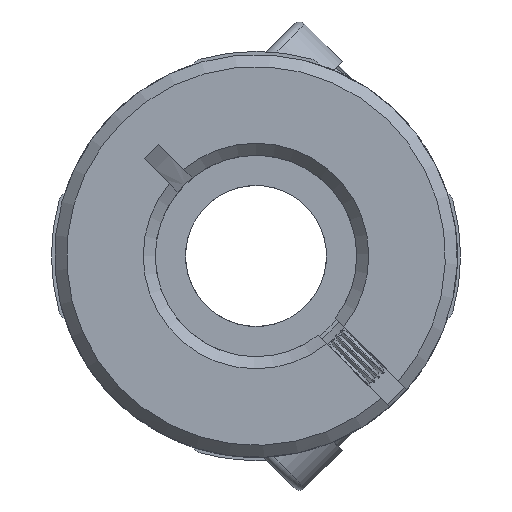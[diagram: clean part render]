
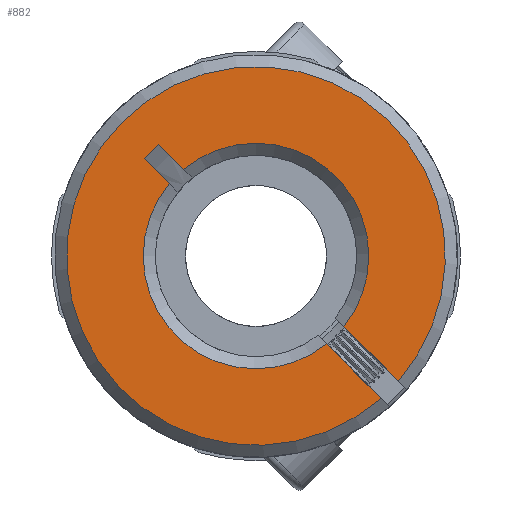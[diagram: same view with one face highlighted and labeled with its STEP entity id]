
A CAD part, front view. The second image highlights one B-rep face of the part: STEP entity #882.
In plain terms, the highlighted planar face has unit normal (0, -1, 0).
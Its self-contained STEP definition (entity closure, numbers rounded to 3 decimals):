
#6 = AXIS2_PLACEMENT_3D ( 'NONE', #3808, #12869, #5773 ) ;
#189 = CARTESIAN_POINT ( 'NONE',  ( 0., -12.6, 0. ) ) ;
#506 = CIRCLE ( 'NONE', #2039, 5.6 ) ;
#528 = VECTOR ( 'NONE', #1985, 1000. ) ;
#585 = VECTOR ( 'NONE', #2566, 1000. ) ;
#595 = EDGE_CURVE ( 'NONE', #7185, #9707, #506, .T. ) ;
#882 = ADVANCED_FACE ( 'NONE', ( #6372 ), #2919, .F. ) ;
#1266 = CARTESIAN_POINT ( 'NONE',  ( 0., -12.6, 0. ) ) ;
#1975 = DIRECTION ( 'NONE',  ( -0.707, 0., 0.707 ) ) ;
#1985 = DIRECTION ( 'NONE',  ( 0.707, 0., -0.707 ) ) ;
#2039 = AXIS2_PLACEMENT_3D ( 'NONE', #189, #9350, #3236 ) ;
#2164 = DIRECTION ( 'NONE',  ( -0.707, 0., -0.707 ) ) ;
#2518 = ORIENTED_EDGE ( 'NONE', *, *, #11544, .F. ) ;
#2566 = DIRECTION ( 'NONE',  ( 0.707, 0., -0.707 ) ) ;
#2639 = CARTESIAN_POINT ( 'NONE',  ( 6.209, -12.6, -7.058 ) ) ;
#2768 = LINE ( 'NONE', #12799, #9588 ) ;
#2833 = ORIENTED_EDGE ( 'NONE', *, *, #10710, .F. ) ;
#2862 = EDGE_CURVE ( 'NONE', #12980, #9944, #6311, .T. ) ;
#2919 = PLANE ( 'NONE',  #6 ) ;
#2941 = LINE ( 'NONE', #11680, #585 ) ;
#3235 = ORIENTED_EDGE ( 'NONE', *, *, #12057, .F. ) ;
#3236 = DIRECTION ( 'NONE',  ( 0.707, 0., -0.707 ) ) ;
#3485 = DIRECTION ( 'NONE',  ( 0.707, 0., -0.707 ) ) ;
#3747 = CARTESIAN_POINT ( 'NONE',  ( -4.298, -12.6, 3.59 ) ) ;
#3808 = CARTESIAN_POINT ( 'NONE',  ( 342.528, -12.6, 364.579 ) ) ;
#4018 = VECTOR ( 'NONE', #1975, 1000. ) ;
#4281 = ORIENTED_EDGE ( 'NONE', *, *, #6040, .T. ) ;
#4321 = CARTESIAN_POINT ( 'NONE',  ( 7.058, -12.6, -6.209 ) ) ;
#4793 = CIRCLE ( 'NONE', #7766, 5.6 ) ;
#4877 = ORIENTED_EDGE ( 'NONE', *, *, #595, .T. ) ;
#4896 = VECTOR ( 'NONE', #2164, 1000. ) ;
#5723 = VERTEX_POINT ( 'NONE', #2639 ) ;
#5773 = DIRECTION ( 'NONE',  ( 0.707, 0., -0.707 ) ) ;
#5862 = VERTEX_POINT ( 'NONE', #3747 ) ;
#6040 = EDGE_CURVE ( 'NONE', #7653, #5862, #4793, .T. ) ;
#6081 = DIRECTION ( 'NONE',  ( 0.707, 0., -0.707 ) ) ;
#6311 = LINE ( 'NONE', #10319, #4896 ) ;
#6332 = DIRECTION ( 'NONE',  ( 0., -1., 0. ) ) ;
#6372 = FACE_OUTER_BOUND ( 'NONE', #9041, .T. ) ;
#6737 = DIRECTION ( 'NONE',  ( 0.707, 0., -0.707 ) ) ;
#7108 = CARTESIAN_POINT ( 'NONE',  ( -5.549, -12.6, 4.842 ) ) ;
#7185 = VERTEX_POINT ( 'NONE', #12124 ) ;
#7653 = VERTEX_POINT ( 'NONE', #10332 ) ;
#7766 = AXIS2_PLACEMENT_3D ( 'NONE', #8089, #12145, #6081 ) ;
#7953 = ORIENTED_EDGE ( 'NONE', *, *, #2862, .F. ) ;
#8089 = CARTESIAN_POINT ( 'NONE',  ( 0., -12.6, 0. ) ) ;
#8408 = ORIENTED_EDGE ( 'NONE', *, *, #10103, .T. ) ;
#8542 = CARTESIAN_POINT ( 'NONE',  ( 4.361, -12.6, -3.513 ) ) ;
#8707 = CARTESIAN_POINT ( 'NONE',  ( -4.842, -12.6, 5.549 ) ) ;
#8716 = VERTEX_POINT ( 'NONE', #4321 ) ;
#9041 = EDGE_LOOP ( 'NONE', ( #12652, #4877, #3235, #8408, #2518, #4281, #2833, #7953 ) ) ;
#9350 = DIRECTION ( 'NONE',  ( 0., 1., 0. ) ) ;
#9354 = EDGE_CURVE ( 'NONE', #12980, #7185, #2941, .T. ) ;
#9588 = VECTOR ( 'NONE', #6737, 1000. ) ;
#9707 = VERTEX_POINT ( 'NONE', #8542 ) ;
#9944 = VERTEX_POINT ( 'NONE', #7108 ) ;
#10103 = EDGE_CURVE ( 'NONE', #8716, #5723, #12625, .T. ) ;
#10133 = CARTESIAN_POINT ( 'NONE',  ( 3.086, -12.6, -3.934 ) ) ;
#10319 = CARTESIAN_POINT ( 'NONE',  ( -4.842, -12.6, 5.549 ) ) ;
#10332 = CARTESIAN_POINT ( 'NONE',  ( 3.513, -12.6, -4.361 ) ) ;
#10523 = AXIS2_PLACEMENT_3D ( 'NONE', #1266, #6332, #3485 ) ;
#10710 = EDGE_CURVE ( 'NONE', #9944, #5862, #2768, .T. ) ;
#10996 = CARTESIAN_POINT ( 'NONE',  ( 3.934, -12.6, -3.086 ) ) ;
#11544 = EDGE_CURVE ( 'NONE', #7653, #5723, #11939, .T. ) ;
#11680 = CARTESIAN_POINT ( 'NONE',  ( 5.657, -12.6, -4.95 ) ) ;
#11791 = LINE ( 'NONE', #10996, #4018 ) ;
#11939 = LINE ( 'NONE', #10133, #528 ) ;
#12057 = EDGE_CURVE ( 'NONE', #8716, #9707, #11791, .T. ) ;
#12124 = CARTESIAN_POINT ( 'NONE',  ( -3.59, -12.6, 4.298 ) ) ;
#12145 = DIRECTION ( 'NONE',  ( 0., 1., 0. ) ) ;
#12625 = CIRCLE ( 'NONE', #10523, 9.4 ) ;
#12652 = ORIENTED_EDGE ( 'NONE', *, *, #9354, .T. ) ;
#12799 = CARTESIAN_POINT ( 'NONE',  ( 4.95, -12.6, -5.657 ) ) ;
#12869 = DIRECTION ( 'NONE',  ( 0., 1., 0. ) ) ;
#12980 = VERTEX_POINT ( 'NONE', #8707 ) ;
